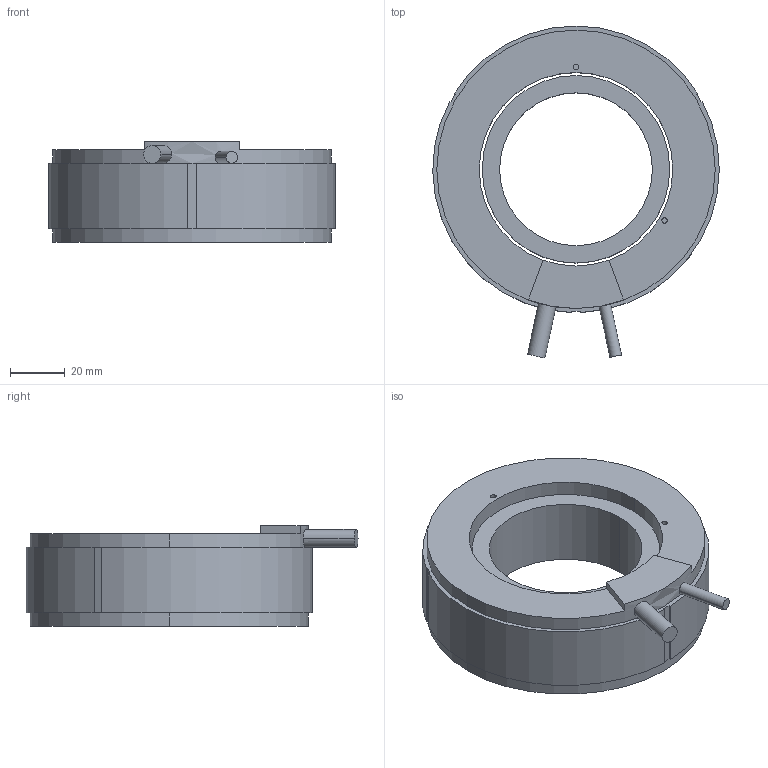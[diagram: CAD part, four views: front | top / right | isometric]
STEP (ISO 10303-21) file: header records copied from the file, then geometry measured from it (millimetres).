
FILE_DESCRIPTION (( 'STEP AP203' ), '1' );
FILE_NAME ('TM105-34 3D.STEP', '2024-01-12T02:43:43', ( '' ), ( '' ), 'SwSTEP 2.0', 'SolidWorks 2021', '' );
FILE_SCHEMA (( 'CONFIG_CONTROL_DESIGN' ));
Length unit declared in the file: millimetre
Products named in the file (1): TM105-34 3D
Bounding box: 104.99 x 121.65 x 37 mm (x, y, z)
Volume: 188088.2 mm3; surface area: 41246.4 mm2
Topology: 2 solids, 2 shells, 44 faces, 105 edges, 70 vertices
Faces by surface type: cylinder 22, plane 22
Entity records: 1492 total; most frequent: CARTESIAN_POINT 344, DIRECTION 235, ORIENTED_EDGE 210, EDGE_CURVE 105, AXIS2_PLACEMENT_3D 89, VERTEX_POINT 70, LINE 57, VECTOR 57
